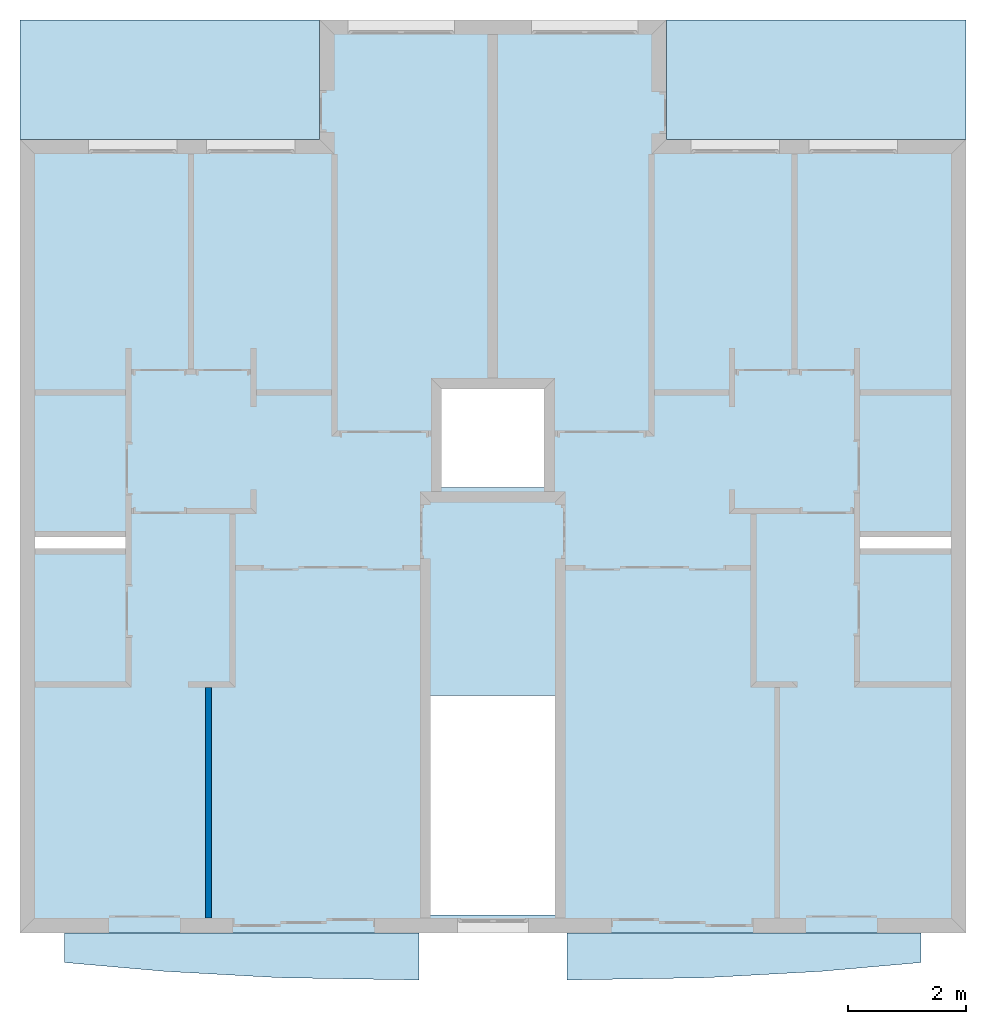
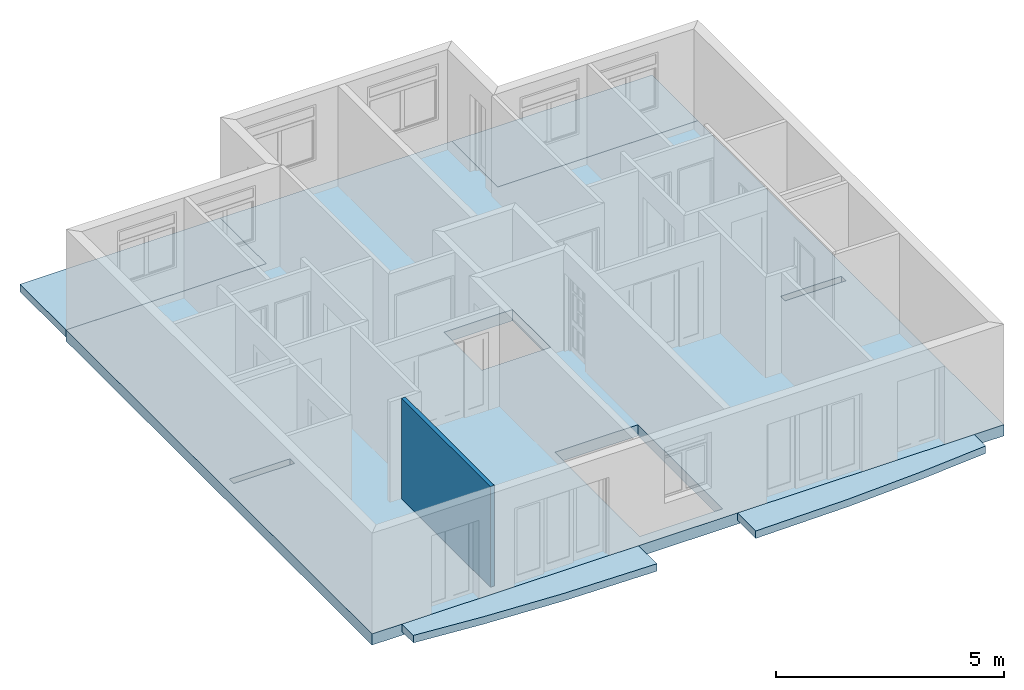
# One storey, part 1 of 13: 5 slabs, 1 wall, 4 openings.
"""IFC2X3 building model written with IfcOpenShell, lengths in metres."""

from ifc_helpers import new_model, entity, si_unit, converted_unit, direction, frame, origin_with_axes, place, context, project, spatial, polyline, outline, extrude, material, layer, layer_set, layer_usage, type_object, element, save


model = new_model("IFC2X3")

# Units and contexts
context_of_model = context(None, 3, precision=1e-05, world=origin_with_axes(), true_north=direction((6.123234e-17, 1.0)))
plan_context = context("Plan", 3, precision=1e-05, world=origin_with_axes(), true_north=direction((6.123234e-17, 1.0)))
model_context = context("Model", 3, precision=1e-05, world=origin_with_axes(), true_north=direction((6.123234e-17, 1.0)))
ifc_project = project(units=[si_unit("LENGTHUNIT", "METRE"), si_unit("AREAUNIT", "SQUARE_METRE"), si_unit("VOLUMEUNIT", "CUBIC_METRE"), converted_unit("PLANEANGLEUNIT", "DEGREE", entity("IfcPlaneAngleMeasure", 0.017453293), si_unit("PLANEANGLEUNIT", "RADIAN"), dimensions=[0, 0, 0, 0, 0, 0, 0]), si_unit("SOLIDANGLEUNIT", "STERADIAN"), si_unit("MASSUNIT", "GRAM"), si_unit("TIMEUNIT", "SECOND"), si_unit("THERMODYNAMICTEMPERATUREUNIT", "DEGREE_CELSIUS"), si_unit("LUMINOUSINTENSITYUNIT", "LUMEN")], contexts=[context_of_model, plan_context, model_context])

# Site, building, storey
site_placement = place(None, origin_with_axes())
site = spatial("IfcSite", under=ifc_project, at=site_placement, Name="Por defecto Sitio", CompositionType="ELEMENT")
building_placement = place(site_placement, origin_with_axes())
building = spatial("IfcBuilding", under=site, at=building_placement, Name="Por defecto Edificio", CompositionType="ELEMENT")
storey_placement = place(building_placement, frame((0.0, 0.0, 7.2), z_axis=(0.0, 0.0, 1.0), x_axis=(1.0, 0.0, 0.0)))
storey = spatial("IfcBuildingStorey", under=building, at=storey_placement, Name="Segunda", CompositionType="ELEMENT", Elevation=7.2)

# Slab, openings
ifc_material_1 = material(Name="Hormigón armado")
ifc_layer_1 = layer(ifc_material_1, 0.3, ventilated="UNKNOWN")
ifc_layer_set_1 = layer_set([ifc_layer_1], Name="Hormigón armado")
ifc_layer_usage_1 = layer_usage(ifc_layer_set_1, "AXIS3", "NEGATIVE", 0.3)
slab_1_placement = place(storey_placement, frame((0.0, 0.0, -0.3), z_axis=(0.0, 0.0, 1.0), x_axis=(1.0, 0.0, 0.0)))
slab_1 = element("IfcSlab", 1, at=slab_1_placement, inside=storey, material=ifc_layer_usage_1, Name="Forj-003", PredefinedType="FLOOR", context=context_of_model, shape_type="SweptSolid", body=[
    extrude(outline(polyline([(0.0, 0.0), (16.03417, 0.0), (16.03417, 13.449173), (10.956053, 13.449173), (10.956053, 15.472599), (5.0781164, 15.472599), (5.0781164, 13.449173), (0.0, 13.449173), (0.0, 0.0)])), origin_with_axes(), (0.0, 0.0, 1.0), 0.3),
])
opening_1_placement = place(slab_1_placement, origin_with_axes())
element("IfcOpeningElement", 2, at=opening_1_placement, cuts=slab_1, context=model_context, shape_type="SweptSolid", body=[
    extrude(outline(polyline([(7.145, 9.2207615), (8.885, 9.2207615), (8.885, 7.5476562), (7.145, 7.5476562), (7.145, 9.2207615)])), origin_with_axes(), (0.0, 0.0, 1.0), 0.3),
])
opening_2_placement = place(slab_1_placement, origin_with_axes())
element("IfcOpeningElement", 3, at=opening_2_placement, cuts=slab_1, context=model_context, shape_type="SweptSolid", body=[
    extrude(outline(polyline([(9.0691698, 4.02), (9.0691698, 0.3), (6.9566603, 0.3), (6.9566603, 4.02), (9.0691698, 4.02)])), origin_with_axes(), (0.0, 0.0, 1.0), 0.3),
])
opening_3_placement = place(slab_1_placement, origin_with_axes())
element("IfcOpeningElement", 4, at=opening_3_placement, cuts=slab_1, context=model_context, shape_type="SweptSolid", body=[
    extrude(outline(polyline([(0.25, 6.7112172), (1.7901652, 6.7112172), (1.7901652, 6.5112172), (0.25, 6.5112172), (0.25, 6.7112172)])), origin_with_axes(), (0.0, 0.0, 1.0), 0.3),
])
opening_4_placement = place(slab_1_placement, origin_with_axes())
element("IfcOpeningElement", 5, at=opening_4_placement, cuts=slab_1, context=model_context, shape_type="SweptSolid", body=[
    extrude(outline(polyline([(14.239835, 6.7112172), (15.78417, 6.7112172), (15.78417, 6.5112172), (14.239835, 6.5112172), (14.239835, 6.7112172)])), origin_with_axes(), (0.0, 0.0, 1.0), 0.3),
])

# Slabs
ifc_material_2 = material(Name="Sólido + Punto&Línea")
ifc_layer_2 = layer(ifc_material_2, 0.2, ventilated="UNKNOWN")
ifc_layer_set_2 = layer_set([ifc_layer_2], Name="Sólido + Punto&Línea")
ifc_layer_usage_2 = layer_usage(ifc_layer_set_2, "AXIS3", "NEGATIVE", 0.2)
slab_2_placement = place(storey_placement, frame((6.7629151, -2.5295321e-12, -0.2), z_axis=(0.0, 0.0, 1.0), x_axis=(-6.8145947e-13, -1.0, 0.0)))
element("IfcSlab", 6, at=slab_2_placement, inside=storey, material=ifc_layer_usage_2, Name="Forj-003", PredefinedType="FLOOR", context=context_of_model, shape_type="SweptSolid", body=[
    extrude(outline(polyline([(0.0, 0.0), (0.8002553, 0.0), (0.76145598, -2.3611599), (0.65450813, -4.3000185), (0.50418985, -6.005), (1.6763188e-12, -6.005), (0.0, 0.0)])), origin_with_axes(), (0.0, 0.0, 1.0), 0.2),
])
ifc_layer_usage_3 = layer_usage(ifc_layer_set_2, "AXIS3", "NEGATIVE", 0.2)
slab_3_placement = place(storey_placement, frame((9.2712548, -2.5295321e-12, -0.2), z_axis=(0.0, 0.0, 1.0), x_axis=(6.8145947e-13, -1.0, 0.0)))
element("IfcSlab", 7, at=slab_3_placement, inside=storey, material=ifc_layer_usage_3, Name="Forj-003", PredefinedType="FLOOR", context=context_of_model, shape_type="SweptSolid", body=[
    extrude(outline(polyline([(0.0, 0.0), (0.8002553, 0.0), (0.76145598, 2.3611599), (0.65450813, 4.3000185), (0.50418985, 6.005), (1.6763188e-12, 6.005), (0.0, 0.0)])), origin_with_axes(), (0.0, 0.0, 1.0), 0.2),
])
ifc_layer_usage_4 = layer_usage(ifc_layer_set_2, "AXIS3", "NEGATIVE", 0.2)
slab_4_placement = place(storey_placement, frame((16.03417, 15.472599, -0.2), z_axis=(0.0, 0.0, 1.0), x_axis=(-1.0, 0.0, 0.0)))
element("IfcSlab", 8, at=slab_4_placement, inside=storey, material=ifc_layer_usage_4, Name="Forj-004", PredefinedType="FLOOR", context=context_of_model, shape_type="SweptSolid", body=[
    extrude(outline(polyline([(0.0, 0.0), (5.0781164, 0.0), (5.0781164, 2.0234265), (0.0, 2.0234265), (0.0, 0.0)])), origin_with_axes(), (0.0, 0.0, 1.0), 0.2),
])
ifc_layer_usage_5 = layer_usage(ifc_layer_set_2, "AXIS3", "NEGATIVE", 0.2)
slab_5_placement = place(storey_placement, frame((-0.00047689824, 15.472599, -0.2), z_axis=(0.0, 0.0, 1.0), x_axis=(1.0, 0.0, 0.0)))
element("IfcSlab", 9, at=slab_5_placement, inside=storey, material=ifc_layer_usage_5, Name="Forj-003", PredefinedType="FLOOR", context=context_of_model, shape_type="SweptSolid", body=[
    extrude(outline(polyline([(0.0, 0.0), (5.0785933, 0.0), (5.0785933, -2.0234265), (0.0, -2.0234265), (0.0, 0.0)])), origin_with_axes(), (0.0, 0.0, 1.0), 0.2),
])

# Wall
ifc_material_3 = material(Name="Ladrillo común")
ifc_layer_3 = layer(ifc_material_3, 0.1, ventilated="UNKNOWN")
ifc_layer_set_3 = layer_set([ifc_layer_3], Name="Ladrillo común")
ifc_layer_usage_6 = layer_usage(ifc_layer_set_3, "AXIS2", "POSITIVE", 0.0)
wall_type = type_object("IfcWallType", Name="Ladrillo común", PredefinedType="NOTDEFINED")
wall_placement = place(storey_placement, frame((3.245141, -1.1368684e-13, 0.0), z_axis=(0.0, 0.0, 1.0), x_axis=(0.0, 1.0, 0.0)))
element("IfcWallStandardCase", 10, at=wall_placement, inside=storey, type_object=wall_type, material=ifc_layer_usage_6, Name="Muro-019", context=context_of_model, shape_type="SweptSolid", body=[
    extrude(outline(polyline([(0.25, 0.0), (4.1588613, 0.0), (4.1588613, 0.1), (0.25, 0.1), (0.25, 0.0)])), origin_with_axes(), (0.0, 0.0, 1.0), 2.7),
])

save(model, "model.ifc")
